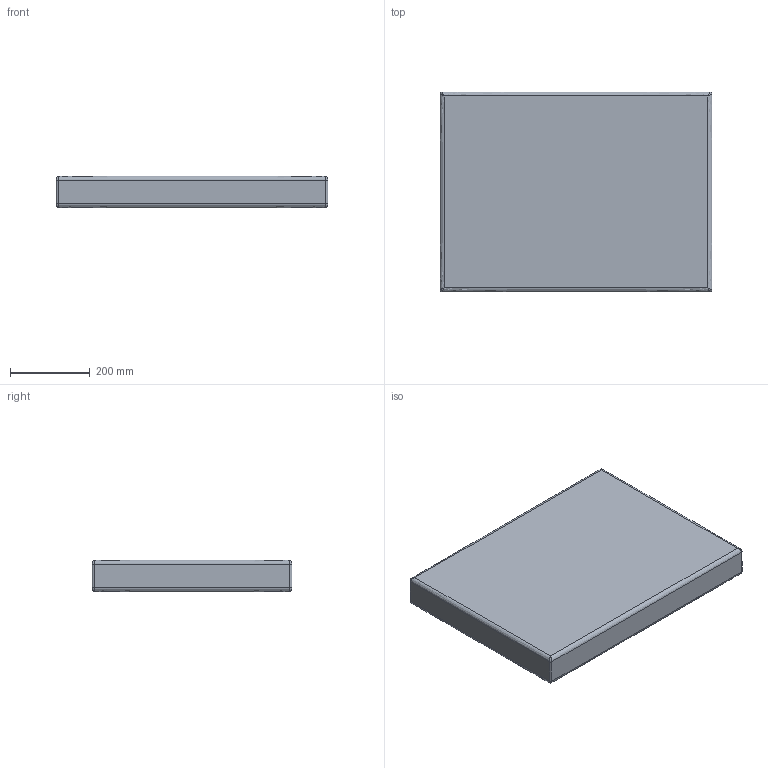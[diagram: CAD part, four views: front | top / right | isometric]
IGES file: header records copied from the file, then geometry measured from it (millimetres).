
Start section: SolidWorks IGES file using NURBS representation for surfaces
Global section: file name: D:\VICCARBE\PRODUCTOS\19-MASS\04-MODELADOS (PLANOS)\SOLIDWORKS\PIEZAS\Arms\01-IGES\VICCARBE_Mass_arm_50.IGS; native system: SolidWorks 2009; preprocessor: SolidWorks 2009; author: RUBEN; date: 110908.155542; units: millimetre
Bounding box: 680 x 500 x 80 mm (x, y, z)
Surface area: 847773.3 mm2 (no closed solid volume)
Topology: 0 solids, 0 shells, 26 faces, 280 edges, 272 vertices
Faces by surface type: bspline 26
